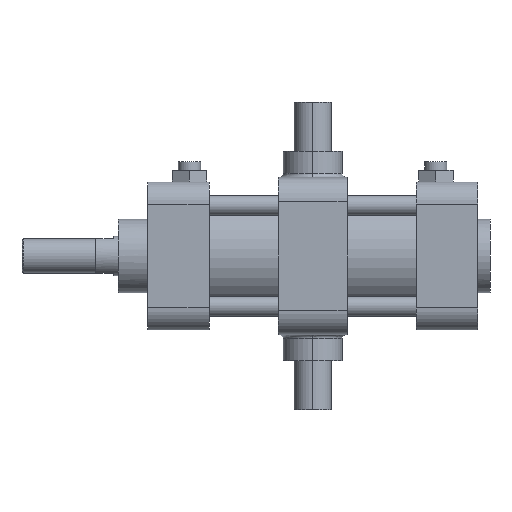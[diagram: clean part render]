
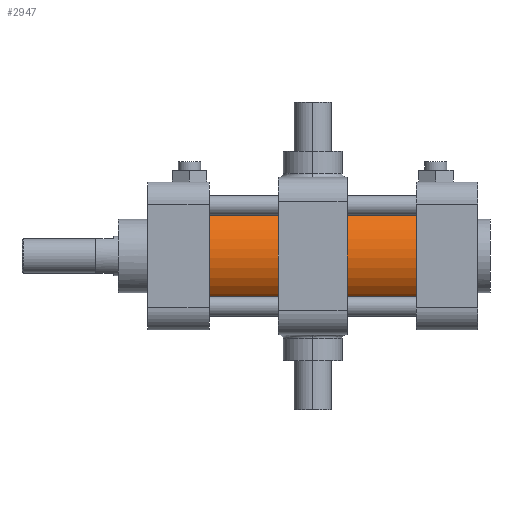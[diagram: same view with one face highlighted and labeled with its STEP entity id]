
A CAD part, front view. The second image highlights one B-rep face of the part: STEP entity #2947.
In plain terms, the highlighted cylindrical face has radius 23 mm (diameter 46 mm), a partial arc.
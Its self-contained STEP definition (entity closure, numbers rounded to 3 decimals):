
#91 = AXIS2_PLACEMENT_3D ( 'NONE', #7846, #1352, #8310 ) ;
#105 = FACE_OUTER_BOUND ( 'NONE', #8195, .T. ) ;
#311 = VERTEX_POINT ( 'NONE', #4973 ) ;
#544 = CARTESIAN_POINT ( 'NONE',  ( 42., 0., -23. ) ) ;
#607 = DIRECTION ( 'NONE',  ( -1., 0., 0. ) ) ;
#778 = EDGE_CURVE ( 'NONE', #1004, #3936, #3887, .T. ) ;
#912 = CIRCLE ( 'NONE', #2221, 23. ) ;
#1004 = VERTEX_POINT ( 'NONE', #544 ) ;
#1352 = DIRECTION ( 'NONE',  ( -1., 0., 0. ) ) ;
#2048 = EDGE_CURVE ( 'NONE', #3936, #9603, #912, .T. ) ;
#2075 = ORIENTED_EDGE ( 'NONE', *, *, #2048, .F. ) ;
#2221 = AXIS2_PLACEMENT_3D ( 'NONE', #3493, #9196, #2869 ) ;
#2823 = AXIS2_PLACEMENT_3D ( 'NONE', #6793, #607, #7258 ) ;
#2869 = DIRECTION ( 'NONE',  ( 0., 0., 1. ) ) ;
#2947 = ADVANCED_FACE ( 'NONE', ( #105 ), #9047, .T. ) ;
#3116 = VECTOR ( 'NONE', #3480, 1000. ) ;
#3480 = DIRECTION ( 'NONE',  ( -1., 0., 0. ) ) ;
#3493 = CARTESIAN_POINT ( 'NONE',  ( -42., 0., 0. ) ) ;
#3887 = LINE ( 'NONE', #6521, #4027 ) ;
#3891 = CARTESIAN_POINT ( 'NONE',  ( -42., 0., 23. ) ) ;
#3936 = VERTEX_POINT ( 'NONE', #4739 ) ;
#4027 = VECTOR ( 'NONE', #5214, 1000. ) ;
#4739 = CARTESIAN_POINT ( 'NONE',  ( -42., 0., -23. ) ) ;
#4973 = CARTESIAN_POINT ( 'NONE',  ( 42., 0., 23. ) ) ;
#5214 = DIRECTION ( 'NONE',  ( -1., 0., 0. ) ) ;
#5492 = CIRCLE ( 'NONE', #91, 23. ) ;
#5647 = EDGE_CURVE ( 'NONE', #1004, #311, #5492, .T. ) ;
#5925 = LINE ( 'NONE', #9187, #3116 ) ;
#6521 = CARTESIAN_POINT ( 'NONE',  ( -29.1, 0., -23. ) ) ;
#6793 = CARTESIAN_POINT ( 'NONE',  ( -29.1, 0., 0. ) ) ;
#6849 = ORIENTED_EDGE ( 'NONE', *, *, #778, .F. ) ;
#7258 = DIRECTION ( 'NONE',  ( 0., 0., 1. ) ) ;
#7846 = CARTESIAN_POINT ( 'NONE',  ( 42., 0., 0. ) ) ;
#8195 = EDGE_LOOP ( 'NONE', ( #6849, #8424, #9436, #2075 ) ) ;
#8310 = DIRECTION ( 'NONE',  ( 0., 0., 1. ) ) ;
#8424 = ORIENTED_EDGE ( 'NONE', *, *, #5647, .T. ) ;
#9047 = CYLINDRICAL_SURFACE ( 'NONE', #2823, 23. ) ;
#9131 = EDGE_CURVE ( 'NONE', #311, #9603, #5925, .T. ) ;
#9187 = CARTESIAN_POINT ( 'NONE',  ( -29.1, 0., 23. ) ) ;
#9196 = DIRECTION ( 'NONE',  ( -1., 0., 0. ) ) ;
#9436 = ORIENTED_EDGE ( 'NONE', *, *, #9131, .T. ) ;
#9603 = VERTEX_POINT ( 'NONE', #3891 ) ;
